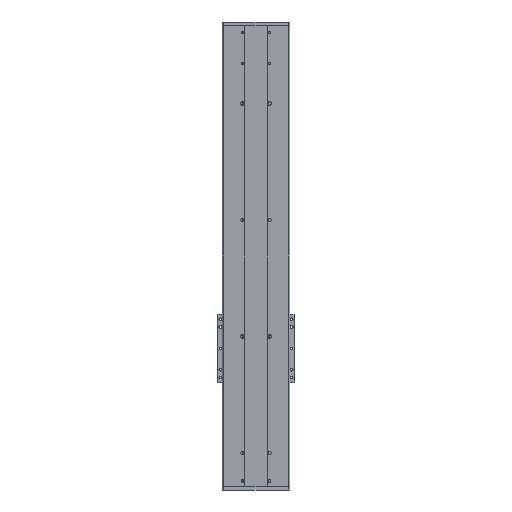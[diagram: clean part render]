
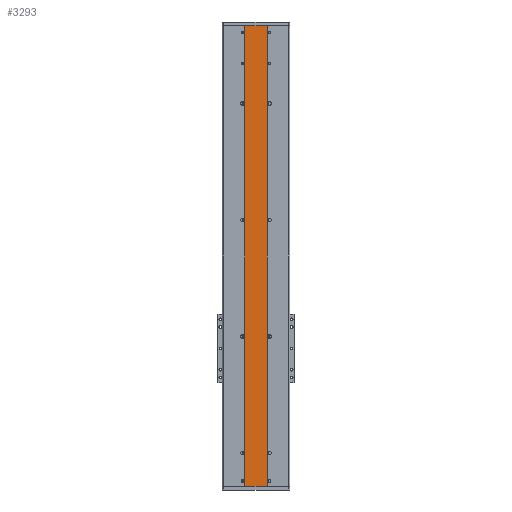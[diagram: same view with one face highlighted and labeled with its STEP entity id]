
A CAD part, front view. The second image highlights one B-rep face of the part: STEP entity #3293.
In plain terms, the highlighted planar face has unit normal (0, -1, 0).
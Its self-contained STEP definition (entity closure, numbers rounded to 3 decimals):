
#989 = DIRECTION ( 'NONE',  ( -1., 0., 0. ) ) ;
#2246 = CARTESIAN_POINT ( 'NONE',  ( 58.27, -85.314, 1185. ) ) ;
#3293 = ADVANCED_FACE ( 'NONE', ( #13656 ), #9981, .F. ) ;
#4503 = EDGE_CURVE ( 'NONE', #5072, #19276, #43200, .T. ) ;
#5063 = VECTOR ( 'NONE', #18799, 1000. ) ;
#5072 = VERTEX_POINT ( 'NONE', #22215 ) ;
#9931 = ORIENTED_EDGE ( 'NONE', *, *, #10567, .T. ) ;
#9981 = PLANE ( 'NONE',  #40169 ) ;
#10421 = CARTESIAN_POINT ( 'NONE',  ( 1.27, -85.314, 1185. ) ) ;
#10567 = EDGE_CURVE ( 'NONE', #11740, #23568, #32041, .T. ) ;
#11118 = LINE ( 'NONE', #17813, #21175 ) ;
#11186 = EDGE_LOOP ( 'NONE', ( #9931, #36152, #31260, #25803 ) ) ;
#11740 = VERTEX_POINT ( 'NONE', #18100 ) ;
#13365 = CARTESIAN_POINT ( 'NONE',  ( 1.27, -85.314, -695. ) ) ;
#13656 = FACE_OUTER_BOUND ( 'NONE', #11186, .T. ) ;
#16785 = DIRECTION ( 'NONE',  ( 0., 0., 1. ) ) ;
#17813 = CARTESIAN_POINT ( 'NONE',  ( 1.27, -85.314, 1185. ) ) ;
#18100 = CARTESIAN_POINT ( 'NONE',  ( 58.27, -85.314, 0. ) ) ;
#18799 = DIRECTION ( 'NONE',  ( 0., 0., 1. ) ) ;
#19276 = VERTEX_POINT ( 'NONE', #10421 ) ;
#21175 = VECTOR ( 'NONE', #989, 1000. ) ;
#21224 = DIRECTION ( 'NONE',  ( -1., 0., 0. ) ) ;
#22215 = CARTESIAN_POINT ( 'NONE',  ( 1.27, -85.314, 0. ) ) ;
#23568 = VERTEX_POINT ( 'NONE', #2246 ) ;
#23615 = VECTOR ( 'NONE', #21224, 1000. ) ;
#24693 = LINE ( 'NONE', #41494, #23615 ) ;
#24740 = CARTESIAN_POINT ( 'NONE',  ( 1.27, -85.314, -695. ) ) ;
#25472 = CARTESIAN_POINT ( 'NONE',  ( 58.27, -85.314, -695. ) ) ;
#25638 = EDGE_CURVE ( 'NONE', #23568, #19276, #11118, .T. ) ;
#25803 = ORIENTED_EDGE ( 'NONE', *, *, #29158, .F. ) ;
#29158 = EDGE_CURVE ( 'NONE', #11740, #5072, #24693, .T. ) ;
#31260 = ORIENTED_EDGE ( 'NONE', *, *, #4503, .F. ) ;
#32041 = LINE ( 'NONE', #25472, #5063 ) ;
#34196 = VECTOR ( 'NONE', #38344, 1000. ) ;
#36152 = ORIENTED_EDGE ( 'NONE', *, *, #25638, .T. ) ;
#37081 = DIRECTION ( 'NONE',  ( 0., 1., 0. ) ) ;
#38344 = DIRECTION ( 'NONE',  ( 0., 0., 1. ) ) ;
#40169 = AXIS2_PLACEMENT_3D ( 'NONE', #13365, #37081, #16785 ) ;
#41494 = CARTESIAN_POINT ( 'NONE',  ( 0., -85.314, 0. ) ) ;
#43200 = LINE ( 'NONE', #24740, #34196 ) ;
